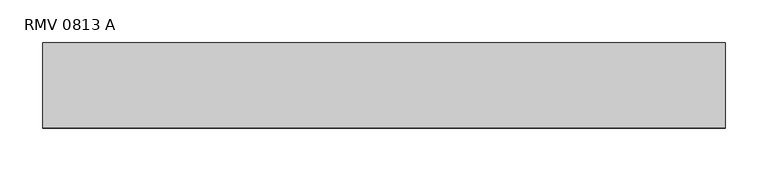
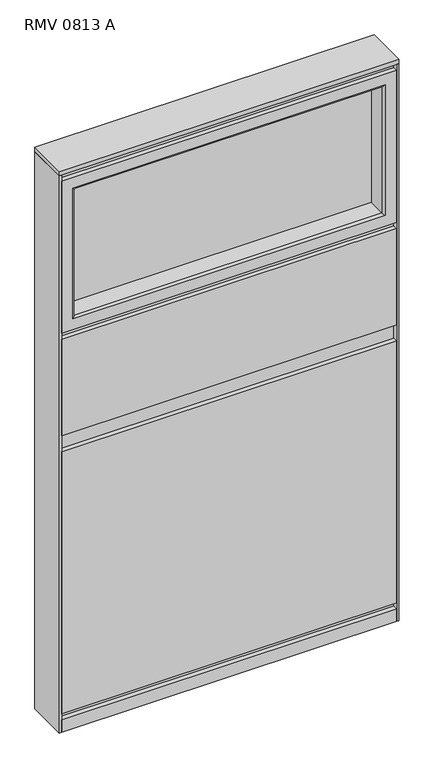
"""IFC4 building model written with IfcOpenShell, lengths in millimetres: furniture geometry, Mobiliário_MobiliáriodeEscritório_LinhaReasons_PainelMisto1400mm-Melamina_Marelli : RMV 0813 A."""

from ifc_helpers import new_model, si_unit, frame, origin, origin_with_axes, place, context, project, spatial, polyline, ellipse_curve, outline, extrude, source, transform, mapped, element, save
from ifc_brep_helpers import plane_surface, cylinder_surface, advanced_brep


def rmv_0813_a_d4f5b42d(model_context):
    return source(origin(), model_context, "Body", "SolidModel", [
        extrude(outline(polyline([(795.0, 100.0), (800.0, 100.0), (800.0, 0.0), (795.0, 0.0), (795.0, 100.0)])), origin_with_axes(), (0.0, 0.0, 1.0), 1389.0),
        extrude(outline(polyline([(800.0, 100.0), (800.0, 0.0), (0.0, 0.0), (0.0, 100.0), (800.0, 100.0)])), frame((0.0, 0.0, 1389.0), z_axis=(0.0, 0.0, 1.0), x_axis=(1.0, 0.0, 0.0)), (0.0, 0.0, 1.0), 11.0),
        extrude(outline(polyline([(5.0, 11.0), (5.0, 89.0), (795.0, 89.0), (795.0, 11.0), (5.0, 11.0)])), origin_with_axes(), (0.0, 0.0, 1.0), 995.0),
        extrude(outline(polyline([(795.0, 100.0), (795.0, 89.0), (5.0, 89.0), (5.0, 100.0), (795.0, 100.0)])), origin_with_axes(), (0.0, 0.0, 1.0), 32.0),
        extrude(outline(polyline([(795.0, 11.0), (795.0, 0.0), (5.0, 0.0), (5.0, 11.0), (795.0, 11.0)])), origin_with_axes(), (0.0, 0.0, 1.0), 32.0),
        extrude(outline(polyline([(795.0, 11.0), (795.0, 0.0), (5.0, 0.0), (5.0, 11.0), (795.0, 11.0)])), frame((0.0, 0.0, 47.0), z_axis=(0.0, 0.0, 1.0), x_axis=(1.0, 0.0, 0.0)), (0.0, 0.0, 1.0), 653.0),
        extrude(outline(polyline([(795.0, 11.0), (795.0, 0.0), (5.0, 0.0), (5.0, 11.0), (795.0, 11.0)])), frame((0.0, 0.0, 740.0), z_axis=(0.0, 0.0, 1.0), x_axis=(1.0, 0.0, 0.0)), (0.0, 0.0, 1.0), 240.0),
        extrude(outline(polyline([(795.0, 100.0), (795.0, 89.0), (5.0, 89.0), (5.0, 100.0), (795.0, 100.0)])), frame((0.0, 0.0, 47.0), z_axis=(0.0, 0.0, 1.0), x_axis=(1.0, 0.0, 0.0)), (0.0, 0.0, 1.0), 653.0),
        extrude(outline(polyline([(795.0, 100.0), (795.0, 89.0), (5.0, 89.0), (5.0, 100.0), (795.0, 100.0)])), frame((0.0, 0.0, 715.0), z_axis=(0.0, 0.0, 1.0), x_axis=(1.0, 0.0, 0.0)), (0.0, 0.0, 1.0), 265.0),
        extrude(outline(polyline([(0.0, 100.0), (5.0, 100.0), (5.0, 0.0), (0.0, 0.0), (0.0, 100.0)])), origin_with_axes(), (0.0, 0.0, 1.0), 1389.0),
        advanced_brep(
        [(763.5, 5.0, 1342.5), (763.5, 95.0, 1342.5), (763.5, 95.0, 1026.5), (763.5, 5.0, 1026.5), (795.0, 100.0, 1374.0), (795.0, 0.0, 1374.0), (795.0, 0.0, 995.0), (795.0, 100.0, 995.0), (36.5, 95.0, 1026.5), (36.5, 5.0, 1026.5), (5.0, 0.0, 995.0), (5.0, 100.0, 995.0), (36.5, 95.0, 1342.5), (36.5, 5.0, 1342.5), (5.0, 0.0, 1374.0), (5.0, 100.0, 1374.0), (768.5, 100.0, 1347.5), (31.5, 100.0, 1347.5), (31.5, 100.0, 1021.5), (768.5, 100.0, 1021.5), (768.5, 0.0, 1021.5), (31.5, 0.0, 1021.5), (31.5, 0.0, 1347.5), (768.5, 0.0, 1347.5)],
        [
            (0, 1),
            (1, 2),
            (2, 3),
            (3, 0),
            (4, 5),
            (5, 6),
            (6, 7),
            (7, 4),
            (2, 8),
            (8, 9),
            (9, 3),
            (6, 10),
            (10, 11),
            (11, 7),
            (8, 12),
            (12, 13),
            (13, 9),
            (10, 14),
            (14, 15),
            (15, 11),
            (15, 4),
            (16, 17),
            (17, 18),
            (18, 19),
            (19, 16),
            (12, 1),
            (0, 13),
            (5, 14),
            (20, 21),
            (21, 22),
            (22, 23),
            (23, 20),
            (1, 16, ellipse_curve(frame((768.5, 95.0, 1347.5), z_axis=(0.7071067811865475, 0.0, -0.7071067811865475), x_axis=(0.7071067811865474, 0.0, 0.7071067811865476)), 7.0710678, 5.0)),
            (19, 2, ellipse_curve(frame((768.5, 95.0, 1021.5), z_axis=(0.7071067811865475, 0.0, 0.7071067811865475), x_axis=(-0.7071067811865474, 0.0, 0.7071067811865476)), 7.0710678, 5.0)),
            (23, 0, ellipse_curve(frame((768.5, 5.0, 1347.5), z_axis=(0.7071067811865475, 0.0, -0.7071067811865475), x_axis=(0.7071067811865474, 0.0, 0.7071067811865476)), 7.0710678, 5.0)),
            (3, 20, ellipse_curve(frame((768.5, 5.0, 1021.5), z_axis=(0.7071067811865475, 0.0, 0.7071067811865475), x_axis=(-0.7071067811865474, 0.0, 0.7071067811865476)), 7.0710678, 5.0)),
            (18, 8, ellipse_curve(frame((31.5, 95.0, 1021.5), z_axis=(0.7071067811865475, 0.0, -0.7071067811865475), x_axis=(0.7071067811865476, 0.0, 0.7071067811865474)), 7.0710678, 5.0)),
            (9, 21, ellipse_curve(frame((31.5, 5.0, 1021.5), z_axis=(0.7071067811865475, 0.0, -0.7071067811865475), x_axis=(0.7071067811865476, 0.0, 0.7071067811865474)), 7.0710678, 5.0)),
            (17, 12, ellipse_curve(frame((31.5, 95.0, 1347.5), z_axis=(-0.7071067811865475, 0.0, -0.7071067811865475), x_axis=(0.7071067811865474, 0.0, -0.7071067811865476)), 7.0710678, 5.0)),
            (13, 22, ellipse_curve(frame((31.5, 5.0, 1347.5), z_axis=(-0.7071067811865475, 0.0, -0.7071067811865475), x_axis=(0.7071067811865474, 0.0, -0.7071067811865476)), 7.0710678, 5.0)),
        ],
        [
            plane_surface(frame((763.5, 95.0, 1342.5), z_axis=(-1.0, 0.0, 0.0), x_axis=(0.0, 0.0, -1.0))),
            plane_surface(frame((795.0, 0.0, 1374.0), z_axis=(1.0, 0.0, 0.0), x_axis=(0.0, 0.0, -1.0))),
            plane_surface(frame((763.5, 95.0, 1026.5), z_axis=(0.0, 0.0, 1.0), x_axis=(-1.0, 0.0, 0.0))),
            plane_surface(frame((795.0, 0.0, 995.0), z_axis=(0.0, 0.0, -1.0), x_axis=(-1.0, 0.0, 0.0))),
            plane_surface(frame((36.5, 95.0, 1026.5), z_axis=(1.0, 0.0, 0.0), x_axis=(0.0, 0.0, 1.0))),
            plane_surface(frame((5.0, 0.0, 995.0), z_axis=(-1.0, 0.0, 0.0), x_axis=(0.0, 0.0, 1.0))),
            plane_surface(frame((5.0, 100.0, 1374.0), z_axis=(0.0, 1.0, 0.0), x_axis=(1.0, 0.0, 0.0))),
            plane_surface(frame((36.5, 95.0, 1342.5), z_axis=(0.0, 0.0, -1.0), x_axis=(1.0, 0.0, 0.0))),
            plane_surface(frame((31.5, 0.0, 1347.5), z_axis=(0.0, -1.0, 0.0), x_axis=(1.0, 0.0, 0.0))),
            plane_surface(frame((5.0, 0.0, 1374.0), z_axis=(0.0, 0.0, 1.0), x_axis=(1.0, 0.0, 0.0))),
            cylinder_surface(frame((768.5, 95.0, 1374.0), z_axis=(0.0, 0.0, 1.0), x_axis=(1.0, 0.0, 0.0)), 5.0),
            cylinder_surface(frame((768.5, 5.0, 1374.0), z_axis=(0.0, 0.0, 1.0), x_axis=(1.0, 0.0, 0.0)), 5.0),
            cylinder_surface(frame((795.0, 95.0, 1021.5), z_axis=(1.0, 0.0, 0.0), x_axis=(0.0, 0.0, -1.0)), 5.0),
            cylinder_surface(frame((795.0, 5.0, 1021.5), z_axis=(1.0, 0.0, 0.0), x_axis=(0.0, 0.0, -1.0)), 5.0),
            cylinder_surface(frame((31.5, 95.0, 995.0), z_axis=(0.0, 0.0, -1.0), x_axis=(-1.0, 0.0, 0.0)), 5.0),
            cylinder_surface(frame((31.5, 5.0, 995.0), z_axis=(0.0, 0.0, -1.0), x_axis=(-1.0, 0.0, 0.0)), 5.0),
            cylinder_surface(frame((5.0, 95.0, 1347.5), z_axis=(-1.0, 0.0, 0.0), x_axis=(0.0, 0.0, 1.0)), 5.0),
            cylinder_surface(frame((5.0, 5.0, 1347.5), z_axis=(-1.0, 0.0, 0.0), x_axis=(0.0, 0.0, 1.0)), 5.0),
        ],
        [
            (0, [[1, 2, 3, 4]]),
            (1, [[5, 6, 7, 8]]),
            (2, [[-3, 9, 10, 11]]),
            (3, [[-7, 12, 13, 14]]),
            (4, [[-10, 15, 16, 17]]),
            (5, [[-13, 18, 19, 20]]),
            (6, [[-14, -20, 21, -8], [22, 23, 24, 25]]),
            (7, [[-16, 26, -1, 27]]),
            (8, [[28, -18, -12, -6], [29, 30, 31, 32]]),
            (9, [[-19, -28, -5, -21]]),
            (10, [[33, -25, 34, -2]]),
            (11, [[35, -4, 36, -32]]),
            (12, [[-34, -24, 37, -9]]),
            (13, [[-36, -11, 38, -29]]),
            (14, [[-37, -23, 39, -15]]),
            (15, [[-38, -17, 40, -30]]),
            (16, [[-39, -22, -33, -26]]),
            (17, [[-40, -27, -35, -31]]),
        ],
    ),
        extrude(outline(polyline([(5.0, 11.0), (5.0, 89.0), (795.0, 89.0), (795.0, 11.0), (5.0, 11.0)])), frame((0.0, 0.0, 1374.0), z_axis=(0.0, 0.0, 1.0), x_axis=(1.0, 0.0, 0.0)), (0.0, 0.0, 1.0), 15.0),
        extrude(outline(polyline([(763.5, 52.0), (763.5, 48.0), (36.5677845, 48.0), (36.5677845, 52.0), (763.5, 52.0)])), frame((0.0, 0.0, 1026.5), z_axis=(0.0, 0.0, 1.0), x_axis=(1.0, 0.0, 0.0)), (0.0, 0.0, 1.0), 316.0),
    ])


if __name__ == "__main__":
    model = new_model("IFC4")
    model_context = context("Model", 3, world=origin())
    ifc_project = project(units=[si_unit("LENGTHUNIT", "METRE", prefix="MILLI")], contexts=[model_context])
    site = spatial("IfcSite", under=ifc_project)
    building = spatial("IfcBuilding", under=site)
    placement = place(None, origin())
    rmv_0813_a_shape = rmv_0813_a_d4f5b42d(model_context)
    element("IfcFurniture", 1, ObjectType="Mobiliário_MobiliáriodeEscritório_LinhaReasons_PainelMisto1400mm-Melamina_Marelli : RMV 0813 A", at=placement, inside=building, context=model_context, shape_type="MappedRepresentation", body=[
        mapped(rmv_0813_a_shape, transform((0.0, 0.0, 0.0), x_axis=(1.0, 0.0, 0.0), y_axis=(0.0, 1.0, 0.0), z_axis=(0.0, 0.0, 1.0))),
    ])
    save(model, "model.ifc")
